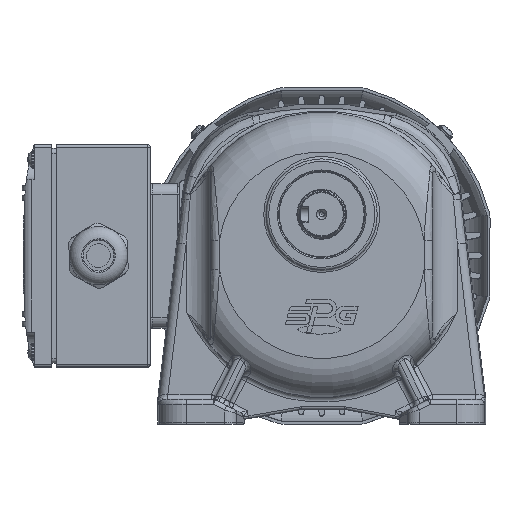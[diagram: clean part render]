
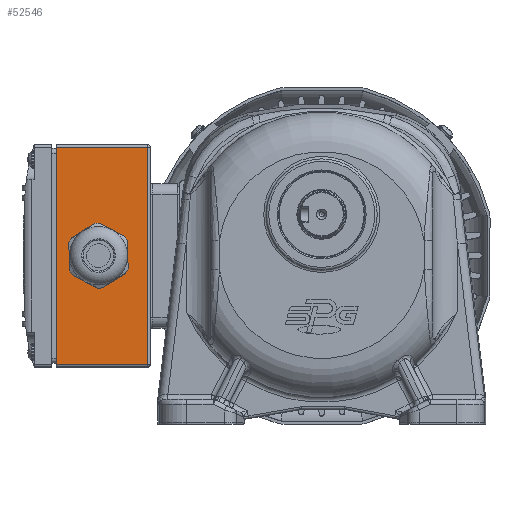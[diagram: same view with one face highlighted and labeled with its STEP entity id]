
A CAD part, top view. The second image highlights one B-rep face of the part: STEP entity #52546.
In plain terms, the highlighted planar face has unit normal (0, 0, 1).
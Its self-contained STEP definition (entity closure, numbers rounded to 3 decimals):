
#2490=LINE('',#78549,#5070);
#2514=LINE('',#78661,#5094);
#2515=LINE('',#78663,#5095);
#2516=LINE('',#78665,#5096);
#2517=LINE('',#78667,#5097);
#2518=LINE('',#78669,#5098);
#2935=LINE('',#80175,#5515);
#2937=LINE('',#80190,#5517);
#2939=LINE('',#80196,#5519);
#2940=LINE('',#80197,#5520);
#5070=VECTOR('',#62570,10.);
#5094=VECTOR('',#62672,10.);
#5095=VECTOR('',#62675,10.);
#5096=VECTOR('',#62678,10.);
#5097=VECTOR('',#62681,10.);
#5098=VECTOR('',#62684,10.);
#5515=VECTOR('',#63831,10.);
#5517=VECTOR('',#63853,10.);
#5519=VECTOR('',#63859,10.);
#5520=VECTOR('',#63860,10.);
#8522=PLANE('',#56171);
#10379=FACE_BOUND('',#14472,.T.);
#11050=FACE_OUTER_BOUND('',#14471,.T.);
#14471=EDGE_LOOP('',(#35352,#35353,#35354,#35355));
#14472=EDGE_LOOP('',(#35356,#35357,#35358,#35359,#35360,#35361,#35362,#35363,
#35364,#35365,#35366,#35367));
#17833=CIRCLE('',#55735,13.);
#17835=CIRCLE('',#55738,13.);
#17837=CIRCLE('',#55741,13.);
#17839=CIRCLE('',#55744,13.);
#17841=CIRCLE('',#55747,13.);
#17843=CIRCLE('',#55750,13.);
#21164=VERTEX_POINT('',#78495);
#21166=VERTEX_POINT('',#78499);
#21168=VERTEX_POINT('',#78504);
#21170=VERTEX_POINT('',#78508);
#21172=VERTEX_POINT('',#78513);
#21174=VERTEX_POINT('',#78517);
#21176=VERTEX_POINT('',#78522);
#21178=VERTEX_POINT('',#78526);
#21180=VERTEX_POINT('',#78531);
#21182=VERTEX_POINT('',#78535);
#21184=VERTEX_POINT('',#78540);
#21186=VERTEX_POINT('',#78544);
#21636=VERTEX_POINT('',#80171);
#21637=VERTEX_POINT('',#80173);
#21640=VERTEX_POINT('',#80189);
#21642=VERTEX_POINT('',#80195);
#26124=EDGE_CURVE('',#21164,#21166,#17833,.T.);
#26128=EDGE_CURVE('',#21168,#21170,#17835,.T.);
#26132=EDGE_CURVE('',#21172,#21174,#17837,.T.);
#26136=EDGE_CURVE('',#21176,#21178,#17839,.T.);
#26140=EDGE_CURVE('',#21180,#21182,#17841,.T.);
#26144=EDGE_CURVE('',#21184,#21186,#17843,.T.);
#26146=EDGE_CURVE('',#21186,#21164,#2490,.T.);
#26195=EDGE_CURVE('',#21166,#21168,#2514,.T.);
#26196=EDGE_CURVE('',#21182,#21184,#2515,.T.);
#26197=EDGE_CURVE('',#21178,#21180,#2516,.T.);
#26198=EDGE_CURVE('',#21174,#21176,#2517,.T.);
#26199=EDGE_CURVE('',#21170,#21172,#2518,.T.);
#26800=EDGE_CURVE('',#21637,#21636,#2935,.T.);
#26807=EDGE_CURVE('',#21636,#21640,#2937,.T.);
#26810=EDGE_CURVE('',#21642,#21637,#2939,.T.);
#26811=EDGE_CURVE('',#21642,#21640,#2940,.T.);
#35352=ORIENTED_EDGE('',*,*,#26800,.F.);
#35353=ORIENTED_EDGE('',*,*,#26810,.F.);
#35354=ORIENTED_EDGE('',*,*,#26811,.T.);
#35355=ORIENTED_EDGE('',*,*,#26807,.F.);
#35356=ORIENTED_EDGE('',*,*,#26144,.T.);
#35357=ORIENTED_EDGE('',*,*,#26146,.T.);
#35358=ORIENTED_EDGE('',*,*,#26124,.T.);
#35359=ORIENTED_EDGE('',*,*,#26195,.T.);
#35360=ORIENTED_EDGE('',*,*,#26128,.T.);
#35361=ORIENTED_EDGE('',*,*,#26199,.T.);
#35362=ORIENTED_EDGE('',*,*,#26132,.T.);
#35363=ORIENTED_EDGE('',*,*,#26198,.T.);
#35364=ORIENTED_EDGE('',*,*,#26136,.T.);
#35365=ORIENTED_EDGE('',*,*,#26197,.T.);
#35366=ORIENTED_EDGE('',*,*,#26140,.T.);
#35367=ORIENTED_EDGE('',*,*,#26196,.T.);
#52546=ADVANCED_FACE('',(#11050,#10379),#8522,.T.);
#55735=AXIS2_PLACEMENT_3D('',#78501,#62525,#62526);
#55738=AXIS2_PLACEMENT_3D('',#78510,#62533,#62534);
#55741=AXIS2_PLACEMENT_3D('',#78519,#62541,#62542);
#55744=AXIS2_PLACEMENT_3D('',#78528,#62549,#62550);
#55747=AXIS2_PLACEMENT_3D('',#78537,#62557,#62558);
#55750=AXIS2_PLACEMENT_3D('',#78546,#62565,#62566);
#56171=AXIS2_PLACEMENT_3D('',#80194,#63857,#63858);
#62525=DIRECTION('center_axis',(0.,0.,
-1.));
#62526=DIRECTION('ref_axis',(0.037,-0.999,0.));
#62533=DIRECTION('center_axis',(0.,0.,
-1.));
#62534=DIRECTION('ref_axis',(0.037,-0.999,0.));
#62541=DIRECTION('center_axis',(0.,0.,
-1.));
#62542=DIRECTION('ref_axis',(0.037,-0.999,0.));
#62549=DIRECTION('center_axis',(0.,0.,
-1.));
#62550=DIRECTION('ref_axis',(0.037,-0.999,0.));
#62557=DIRECTION('center_axis',(0.,0.,
-1.));
#62558=DIRECTION('ref_axis',(0.037,-0.999,0.));
#62565=DIRECTION('center_axis',(0.,0.,
-1.));
#62566=DIRECTION('ref_axis',(0.037,-0.999,0.));
#62570=DIRECTION('',(-0.037,0.999,0.));
#62672=DIRECTION('',(0.847,0.532,0.));
#62675=DIRECTION('',(-0.884,0.467,0.));
#62678=DIRECTION('',(-0.847,-0.532,0.));
#62681=DIRECTION('',(0.037,-0.999,0.));
#62684=DIRECTION('',(0.884,-0.467,0.));
#63831=DIRECTION('',(0.,-1.,0.));
#63853=DIRECTION('',(-1.,0.,0.));
#63857=DIRECTION('center_axis',(0.,0.,
1.));
#63858=DIRECTION('ref_axis',(1.,0.,0.));
#63859=DIRECTION('',(1.,0.,0.));
#63860=DIRECTION('',(0.,-1.,0.));
#78495=CARTESIAN_POINT('',(-76.962,13.85,-84.));
#78499=CARTESIAN_POINT('',(-75.751,16.141,-84.));
#78501=CARTESIAN_POINT('Origin',(-64.92,8.952,-84.));
#78504=CARTESIAN_POINT('',(-66.699,21.83,-84.));
#78508=CARTESIAN_POINT('',(-64.11,21.927,-84.));
#78510=CARTESIAN_POINT('Origin',(-64.92,8.952,-84.));
#78513=CARTESIAN_POINT('',(-54.657,16.931,-84.));
#78517=CARTESIAN_POINT('',(-53.279,14.738,-84.));
#78519=CARTESIAN_POINT('Origin',(-64.92,8.952,-84.));
#78522=CARTESIAN_POINT('',(-52.878,4.054,-84.));
#78526=CARTESIAN_POINT('',(-54.089,1.763,-84.));
#78528=CARTESIAN_POINT('Origin',(-64.92,8.952,-84.));
#78531=CARTESIAN_POINT('',(-63.141,-3.926,-84.));
#78535=CARTESIAN_POINT('',(-65.73,-4.023,-84.));
#78537=CARTESIAN_POINT('Origin',(-64.92,8.952,-84.));
#78540=CARTESIAN_POINT('',(-75.183,0.973,-84.));
#78544=CARTESIAN_POINT('',(-76.561,3.166,-84.));
#78546=CARTESIAN_POINT('Origin',(-64.92,8.952,-84.));
#78549=CARTESIAN_POINT('',(-77.717,34.002,-84.));
#78661=CARTESIAN_POINT('',(-50.665,31.906,-84.));
#78663=CARTESIAN_POINT('',(-74.567,0.647,-84.));
#78665=CARTESIAN_POINT('',(-43.847,8.199,-84.));
#78667=CARTESIAN_POINT('',(-53.778,28.053,-84.));
#78669=CARTESIAN_POINT('',(-57.445,18.405,-84.));
#80171=CARTESIAN_POINT('',(-44.92,-35.048,-84.));
#80173=CARTESIAN_POINT('',(-44.92,52.952,-84.));
#80175=CARTESIAN_POINT('',(-44.92,31.452,-84.));
#80189=CARTESIAN_POINT('',(-81.92,-35.048,-84.));
#80190=CARTESIAN_POINT('',(-43.92,-35.048,-84.));
#80194=CARTESIAN_POINT('Origin',(-43.92,53.952,-84.));
#80195=CARTESIAN_POINT('',(-81.92,52.952,-84.));
#80196=CARTESIAN_POINT('',(-43.92,52.952,-84.));
#80197=CARTESIAN_POINT('',(-81.92,-36.048,-84.));
